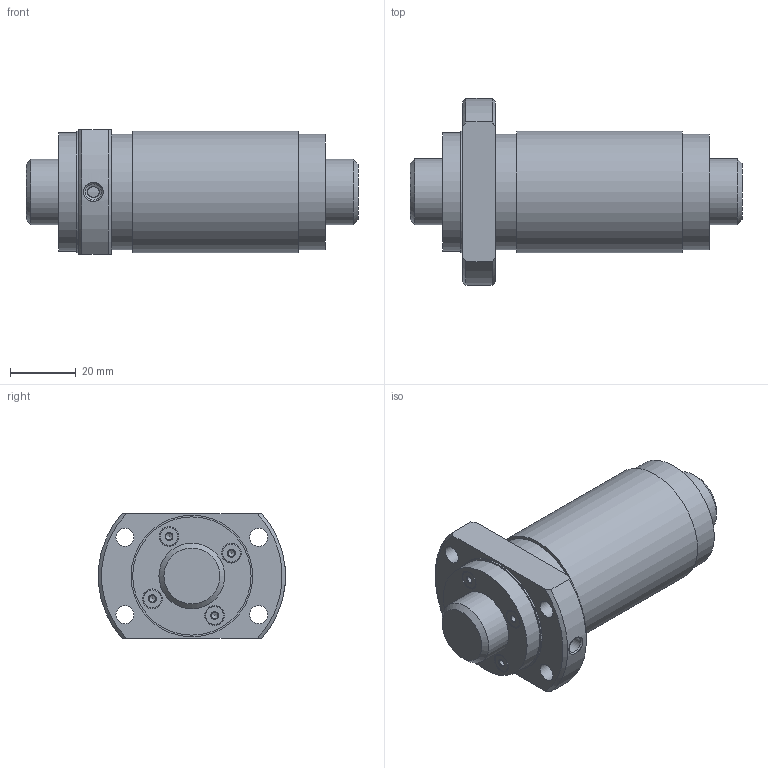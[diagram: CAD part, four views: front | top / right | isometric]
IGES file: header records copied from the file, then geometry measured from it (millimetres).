
Start section: Data from Parasolid IGES Translator 26.0.171, Copyright(c) 2006 Siemens PLM Software. All Rights Reserved.
Global section: file name: WGF2040-3G1+101LC3_0_13_0_0.igs; native system: By Siemens PLM Incorporated; preprocessor: XPlus GENERIC/IGES 26.0.171; author: Noname; organization: Noname; date: 20250116.062551; units: millimetre
Bounding box: 101 x 56.91 x 38 mm (x, y, z)
Surface area: 26821.3 mm2 (no closed solid volume)
Topology: 0 solids, 0 shells, 65 faces, 272 edges, 219 vertices
Faces by surface type: revolution 46, extrusion 19
